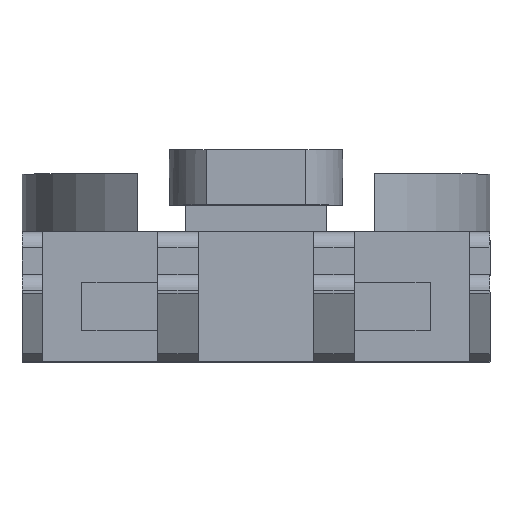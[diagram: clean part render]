
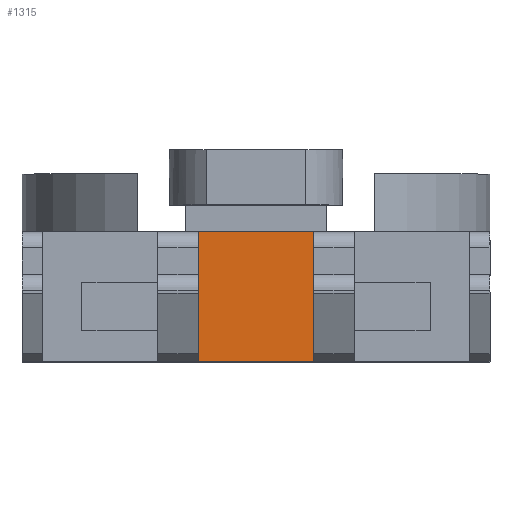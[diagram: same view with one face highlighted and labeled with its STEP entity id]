
A CAD part, top view. The second image highlights one B-rep face of the part: STEP entity #1315.
In plain terms, the highlighted planar face has unit normal (0, 0, 1).
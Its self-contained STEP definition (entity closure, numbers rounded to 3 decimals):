
#142 = CARTESIAN_POINT ( 'NONE',  ( 3.65, 0., 19. ) ) ;
#212 = CARTESIAN_POINT ( 'NONE',  ( 3.65, -3.8, 19. ) ) ;
#378 = DIRECTION ( 'NONE',  ( -1., 0., 0. ) ) ;
#434 = VERTEX_POINT ( 'NONE', #4001 ) ;
#515 = LINE ( 'NONE', #212, #4511 ) ;
#696 = VECTOR ( 'NONE', #1792, 1000. ) ;
#788 = EDGE_CURVE ( 'NONE', #1613, #2318, #515, .T. ) ;
#821 = LINE ( 'NONE', #4457, #696 ) ;
#1315 = ADVANCED_FACE ( 'NONE', ( #1990 ), #4952, .F. ) ;
#1381 = EDGE_CURVE ( 'NONE', #434, #1613, #821, .T. ) ;
#1588 = CARTESIAN_POINT ( 'NONE',  ( -3.65, -3.8, 19. ) ) ;
#1613 = VERTEX_POINT ( 'NONE', #142 ) ;
#1792 = DIRECTION ( 'NONE',  ( 1., 0., 0. ) ) ;
#1833 = EDGE_CURVE ( 'NONE', #2318, #2341, #4618, .T. ) ;
#1835 = LINE ( 'NONE', #1588, #2753 ) ;
#1949 = DIRECTION ( 'NONE',  ( -1., 0., 0. ) ) ;
#1990 = FACE_OUTER_BOUND ( 'NONE', #2928, .T. ) ;
#2134 = CARTESIAN_POINT ( 'NONE',  ( -3.65, 8.2, 19. ) ) ;
#2318 = VERTEX_POINT ( 'NONE', #2678 ) ;
#2341 = VERTEX_POINT ( 'NONE', #3426 ) ;
#2576 = ORIENTED_EDGE ( 'NONE', *, *, #1833, .T. ) ;
#2606 = CARTESIAN_POINT ( 'NONE',  ( -3.65, -3.8, 19. ) ) ;
#2678 = CARTESIAN_POINT ( 'NONE',  ( 3.65, 8.2, 19. ) ) ;
#2753 = VECTOR ( 'NONE', #4659, 1000. ) ;
#2792 = ORIENTED_EDGE ( 'NONE', *, *, #788, .T. ) ;
#2928 = EDGE_LOOP ( 'NONE', ( #4188, #2792, #2576, #3547 ) ) ;
#3038 = DIRECTION ( 'NONE',  ( 0., 0., -1. ) ) ;
#3426 = CARTESIAN_POINT ( 'NONE',  ( -3.65, 8.2, 19. ) ) ;
#3547 = ORIENTED_EDGE ( 'NONE', *, *, #4138, .F. ) ;
#3585 = AXIS2_PLACEMENT_3D ( 'NONE', #2606, #3038, #1949 ) ;
#3634 = VECTOR ( 'NONE', #378, 1000. ) ;
#4001 = CARTESIAN_POINT ( 'NONE',  ( -3.65, 0., 19. ) ) ;
#4138 = EDGE_CURVE ( 'NONE', #434, #2341, #1835, .T. ) ;
#4188 = ORIENTED_EDGE ( 'NONE', *, *, #1381, .T. ) ;
#4457 = CARTESIAN_POINT ( 'NONE',  ( 0., 0., 19. ) ) ;
#4465 = DIRECTION ( 'NONE',  ( 0., 1., 0. ) ) ;
#4511 = VECTOR ( 'NONE', #4465, 1000. ) ;
#4618 = LINE ( 'NONE', #2134, #3634 ) ;
#4659 = DIRECTION ( 'NONE',  ( 0., 1., 0. ) ) ;
#4952 = PLANE ( 'NONE',  #3585 ) ;
